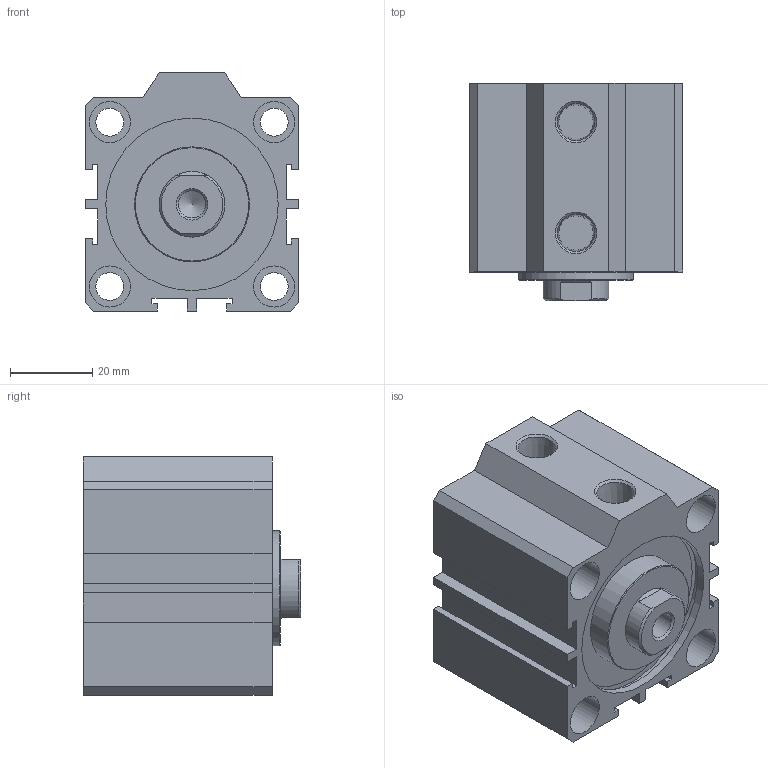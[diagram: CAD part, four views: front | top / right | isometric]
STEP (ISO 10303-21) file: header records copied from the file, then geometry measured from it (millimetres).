
FILE_DESCRIPTION(/* description */ ('Unknown'),/* implementation_level */ '2;1');
FILE_NAME(/* name */ 'WJ40-20',/* time_stamp */ '2026-07-17T16:17:18+08:00',/* author */ ('Unknown'),/* organization */ ('Unknown'),/* preprocessor_version */ 'ST-DEVELOPER v16.7',/* originating_system */ 'DEX',/* authorisation */ $);
FILE_SCHEMA (('CONFIG_CONTROL_DESIGN'));
Length unit declared in the file: millimetre
Products named in the file (5): WJ40-20; WJ40_本; WJ40_前; WJ40_､ﾟｶbｬ｡_;m^XD}
Assembly tree (4 placements, depth 2):
  WJ40-20
    WJ40_本
    WJ40_前
    (unnamed)
    WJ40_､ﾟｶbｬ｡_;m^XD}
Bounding box: 52 x 53 x 58 mm (x, y, z)
Volume: 85261.5 mm3; surface area: 39595.7 mm2
Topology: 4 solids, 4 shells, 118 faces, 283 edges, 192 vertices
Faces by surface type: plane 79, cylinder 29, cone 10
Full cylindrical faces by diameter (mm): 6.647 x1, 6.8 x4, 8.4 x2, 10 x8, 16 x2, 28 x2, 39.5 x1, 40 x1, 42 x6, 44.5 x2
Entity records: 3953 total; most frequent: DIRECTION 538, CARTESIAN_POINT 534, ORIENTED_EDGE 452, EDGE_CURVE 226, AXIS2_PLACEMENT_3D 193, FACE_BOUND 187, EDGE_LOOP 186, VERTEX_POINT 173
